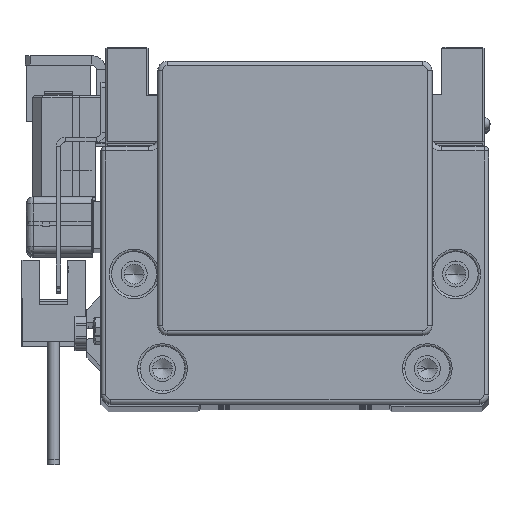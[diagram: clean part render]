
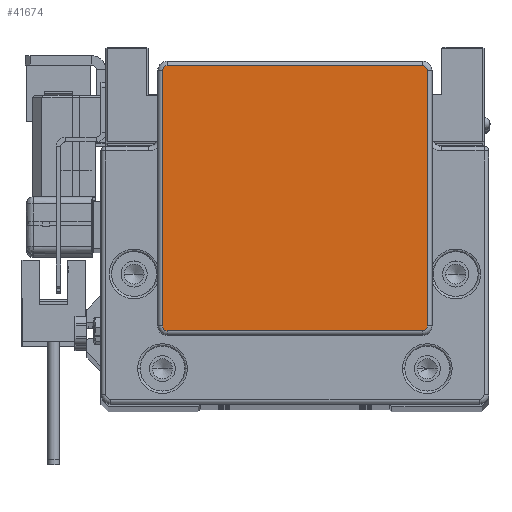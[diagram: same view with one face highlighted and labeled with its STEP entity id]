
A CAD part, top view. The second image highlights one B-rep face of the part: STEP entity #41674.
In plain terms, the highlighted planar face has unit normal (0, 0, 1).
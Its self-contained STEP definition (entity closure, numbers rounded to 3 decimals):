
#323 = LINE ( 'NONE', #17404, #37940 ) ;
#733 = AXIS2_PLACEMENT_3D ( 'NONE', #23237, #39993, #5363 ) ;
#1267 = LINE ( 'NONE', #18346, #11867 ) ;
#2031 = CARTESIAN_POINT ( 'NONE',  ( -28., 34.25, 17. ) ) ;
#2413 = EDGE_CURVE ( 'NONE', #28022, #34017, #54211, .T. ) ;
#3258 = DIRECTION ( 'NONE',  ( 1., 0., 0. ) ) ;
#4650 = CARTESIAN_POINT ( 'NONE',  ( 27., -20.75, 17. ) ) ;
#4938 = AXIS2_PLACEMENT_3D ( 'NONE', #33109, #45399, #15277 ) ;
#5363 = DIRECTION ( 'NONE',  ( 1., 0., 0. ) ) ;
#5448 = ORIENTED_EDGE ( 'NONE', *, *, #24785, .T. ) ;
#6008 = EDGE_LOOP ( 'NONE', ( #5448, #20970, #45092, #25051, #37574, #39865, #28473, #52726 ) ) ;
#6538 = VERTEX_POINT ( 'NONE', #4650 ) ;
#7639 = CARTESIAN_POINT ( 'NONE',  ( 27., -20.75, 17. ) ) ;
#7980 = CARTESIAN_POINT ( 'NONE',  ( 28., 34.25, 17. ) ) ;
#8799 = EDGE_CURVE ( 'NONE', #49750, #48930, #323, .T. ) ;
#9071 = LINE ( 'NONE', #7980, #47884 ) ;
#10329 = EDGE_CURVE ( 'NONE', #16530, #49750, #34374, .T. ) ;
#11071 = CARTESIAN_POINT ( 'NONE',  ( 28., 34.25, 17. ) ) ;
#11196 = VERTEX_POINT ( 'NONE', #33820 ) ;
#11453 = AXIS2_PLACEMENT_3D ( 'NONE', #50320, #29393, #38055 ) ;
#11831 = PLANE ( 'NONE',  #11453 ) ;
#11867 = VECTOR ( 'NONE', #35348, 1000. ) ;
#15277 = DIRECTION ( 'NONE',  ( 1., 0., 0. ) ) ;
#15649 = AXIS2_PLACEMENT_3D ( 'NONE', #50724, #42089, #3258 ) ;
#16450 = VERTEX_POINT ( 'NONE', #46894 ) ;
#16530 = VERTEX_POINT ( 'NONE', #18133 ) ;
#17404 = CARTESIAN_POINT ( 'NONE',  ( -28., -19.75, 17. ) ) ;
#18133 = CARTESIAN_POINT ( 'NONE',  ( -27., 35.25, 17. ) ) ;
#18346 = CARTESIAN_POINT ( 'NONE',  ( -27., 35.25, 17. ) ) ;
#20557 = EDGE_CURVE ( 'NONE', #6538, #11196, #28136, .T. ) ;
#20970 = ORIENTED_EDGE ( 'NONE', *, *, #10329, .T. ) ;
#23237 = CARTESIAN_POINT ( 'NONE',  ( 27., 34.25, 17. ) ) ;
#24552 = CIRCLE ( 'NONE', #15649, 1. ) ;
#24683 = DIRECTION ( 'NONE',  ( 1., 0., 0. ) ) ;
#24785 = EDGE_CURVE ( 'NONE', #34017, #16530, #1267, .T. ) ;
#25005 = DIRECTION ( 'NONE',  ( 0., 1., 0. ) ) ;
#25051 = ORIENTED_EDGE ( 'NONE', *, *, #54207, .T. ) ;
#25209 = FACE_OUTER_BOUND ( 'NONE', #6008, .T. ) ;
#27901 = CARTESIAN_POINT ( 'NONE',  ( -27., 34.25, 17. ) ) ;
#28022 = VERTEX_POINT ( 'NONE', #11071 ) ;
#28136 = CIRCLE ( 'NONE', #4938, 1. ) ;
#28473 = ORIENTED_EDGE ( 'NONE', *, *, #30827, .T. ) ;
#29393 = DIRECTION ( 'NONE',  ( 0., 0., 1. ) ) ;
#29521 = CARTESIAN_POINT ( 'NONE',  ( 27., 35.25, 17. ) ) ;
#30827 = EDGE_CURVE ( 'NONE', #11196, #28022, #9071, .T. ) ;
#31826 = DIRECTION ( 'NONE',  ( 1., 0., 0. ) ) ;
#33109 = CARTESIAN_POINT ( 'NONE',  ( 27., -19.75, 17. ) ) ;
#33820 = CARTESIAN_POINT ( 'NONE',  ( 28., -19.75, 17. ) ) ;
#34017 = VERTEX_POINT ( 'NONE', #29521 ) ;
#34374 = CIRCLE ( 'NONE', #53965, 1. ) ;
#34393 = DIRECTION ( 'NONE',  ( 0., -1., 0. ) ) ;
#35348 = DIRECTION ( 'NONE',  ( -1., 0., 0. ) ) ;
#37574 = ORIENTED_EDGE ( 'NONE', *, *, #42621, .T. ) ;
#37940 = VECTOR ( 'NONE', #34393, 1000. ) ;
#38055 = DIRECTION ( 'NONE',  ( 1., 0., 0. ) ) ;
#39865 = ORIENTED_EDGE ( 'NONE', *, *, #20557, .T. ) ;
#39993 = DIRECTION ( 'NONE',  ( 0., 0., 1. ) ) ;
#41674 = ADVANCED_FACE ( 'NONE', ( #25209 ), #11831, .T. ) ;
#42089 = DIRECTION ( 'NONE',  ( 0., 0., 1. ) ) ;
#42621 = EDGE_CURVE ( 'NONE', #16450, #6538, #45885, .T. ) ;
#45092 = ORIENTED_EDGE ( 'NONE', *, *, #8799, .T. ) ;
#45399 = DIRECTION ( 'NONE',  ( 0., 0., 1. ) ) ;
#45885 = LINE ( 'NONE', #7639, #53401 ) ;
#46894 = CARTESIAN_POINT ( 'NONE',  ( -27., -20.75, 17. ) ) ;
#47884 = VECTOR ( 'NONE', #25005, 1000. ) ;
#48839 = DIRECTION ( 'NONE',  ( 0., 0., 1. ) ) ;
#48930 = VERTEX_POINT ( 'NONE', #49174 ) ;
#49174 = CARTESIAN_POINT ( 'NONE',  ( -28., -19.75, 17. ) ) ;
#49750 = VERTEX_POINT ( 'NONE', #2031 ) ;
#50320 = CARTESIAN_POINT ( 'NONE',  ( -27., -19.75, 17. ) ) ;
#50724 = CARTESIAN_POINT ( 'NONE',  ( -27., -19.75, 17. ) ) ;
#52726 = ORIENTED_EDGE ( 'NONE', *, *, #2413, .T. ) ;
#53401 = VECTOR ( 'NONE', #24683, 1000. ) ;
#53965 = AXIS2_PLACEMENT_3D ( 'NONE', #27901, #48839, #31826 ) ;
#54207 = EDGE_CURVE ( 'NONE', #48930, #16450, #24552, .T. ) ;
#54211 = CIRCLE ( 'NONE', #733, 1. ) ;
